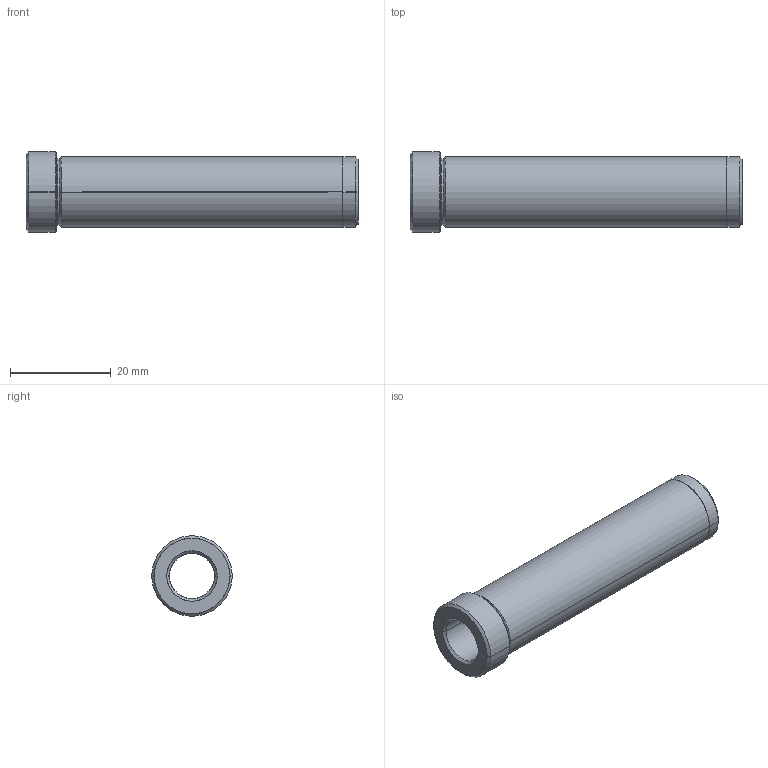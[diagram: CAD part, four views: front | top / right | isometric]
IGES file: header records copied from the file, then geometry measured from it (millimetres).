
Start section: SolidWorks IGES file using analytic representation for surfaces
Global section: file name: C:\Users\Ryan\Documents\PCS\Metric DIN Guide Bushings - Without Collar\GDB-ESS-09-066.igs; native system: SolidWorks 2009; preprocessor: SolidWorks 2009; author: Ryan; date: 151213.103928; units: millimetre
Bounding box: 66 x 16 x 16 mm (x, y, z)
Surface area: 5046.1 mm2 (no closed solid volume)
Topology: 0 solids, 0 shells, 30 faces, 360 edges, 360 vertices
Faces by surface type: revolution 22, bspline 8
